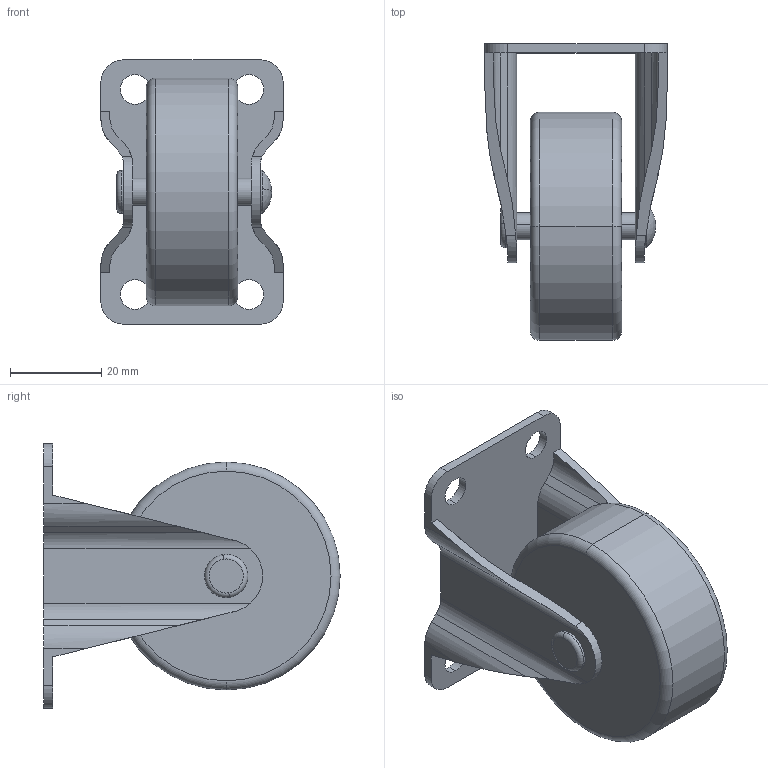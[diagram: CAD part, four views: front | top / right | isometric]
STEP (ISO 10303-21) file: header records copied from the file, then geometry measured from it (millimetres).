
FILE_DESCRIPTION (( 'STEP AP214' ), '1' );
FILE_NAME ('GR-50R.STEP', '2020-03-23T14:16:04', ( '' ), ( '' ), 'SwSTEP 2.0', 'SolidWorks 2019', '' );
FILE_SCHEMA (( 'AUTOMOTIVE_DESIGN' ));
Length unit declared in the file: millimetre
Products named in the file (4): GR-50R_Wheel; GR-50R_partsA; GR-50R_jiku; GR-50R
Assembly tree (3 placements, depth 2):
  GR-50R
    GR-50R_partsA
    GR-50R_Wheel
    GR-50R_jiku
Bounding box: 40 x 65 x 58 mm (x, y, z)
Volume: 47943.9 mm3; surface area: 17396.7 mm2
Topology: 3 solids, 3 shells, 85 faces, 226 edges, 149 vertices
Faces by surface type: cylinder 44, plane 33, torus 6, sphere 2
Entity records: 2890 total; most frequent: CARTESIAN_POINT 570, DIRECTION 472, ORIENTED_EDGE 452, EDGE_CURVE 226, AXIS2_PLACEMENT_3D 179, VERTEX_POINT 149, VECTOR 114, LINE 114
